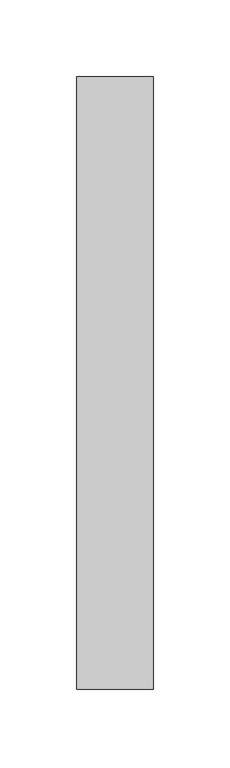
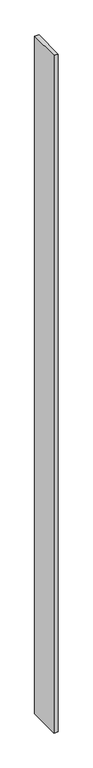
"""IFC4 building model written with IfcOpenShell, lengths in millimetres: proxy geometry, Menneau extrémité façade."""

import ifcopenshell
import ifcopenshell.guid

model = None  # the IFC model being written
_history = None  # IfcOwnerHistory: only IFC2X3 demands one
_inside = {}  # id of a spatial element -> (the spatial element, [elements in it])
_under = {}  # id of a project, library or spatial element -> (it, [spatial elements below it])
_declared = {}  # id of a project -> (the project, [libraries it declares])
_typed = {}  # id of a type object -> (the type object, [elements of that type])
_made_of = {}  # id of a material, layer set ... -> (it, [elements and type objects made of it])


def new_model(schema):
    """Start an empty IFC model of exactly this schema.

    Asked for "IFC4X3", IfcOpenShell would pick the latest addendum, in which some entities
    have other attributes; the version numbers below select the first issue.
    IFC2X3 requires an IfcOwnerHistory on every rooted entity: one is made here for all.
    """
    global model, _history
    if schema == "IFC4X3":
        model = ifcopenshell.file(schema_version=(4, 3, 0, 0))
    else:
        model = ifcopenshell.file(schema=schema)
    _inside.clear()
    _under.clear()
    _declared.clear()
    _typed.clear()
    _made_of.clear()
    _history = None
    if model.schema == "IFC2X3":
        org = make("IfcOrganization", Name="unknown")
        user = make(
            "IfcPersonAndOrganization",
            ThePerson=make("IfcPerson", FamilyName="unknown"),
            TheOrganization=org,
        )
        app = make(
            "IfcApplication",
            ApplicationDeveloper=org,
            Version="unknown",
            ApplicationFullName="unknown",
            ApplicationIdentifier="unknown",
        )
        _history = make(
            "IfcOwnerHistory",
            OwningUser=user,
            OwningApplication=app,
            ChangeAction="ADDED",
            CreationDate=0,
        )
    return model


def make(cls, **values):
    """One entity of the class cls with the attributes given. An attribute that is None is left unset."""
    return model.create_entity(
        cls, **{name: value for name, value in values.items() if value is not None}
    )


def rooted(cls, **values):
    """An entity with a GlobalId (a new one), such as an element, a storey or a relation."""
    return make(cls, GlobalId=ifcopenshell.guid.new(), OwnerHistory=_history, **values)


def si_unit(unit_type, name, prefix=None):
    """IfcSIUnit, for example si_unit("LENGTHUNIT", "METRE", prefix="MILLI")."""
    return make("IfcSIUnit", UnitType=unit_type, Prefix=prefix, Name=name)


def assignment(units):
    """IfcUnitAssignment: the units of a project."""
    return None if units is None else make("IfcUnitAssignment", Units=units)


def point(xyz):
    """IfcCartesianPoint."""
    return None if xyz is None else make("IfcCartesianPoint", Coordinates=xyz)


def direction(xyz):
    """IfcDirection."""
    return None if xyz is None else make("IfcDirection", DirectionRatios=xyz)


def frame(location, z_axis=None, x_axis=None):
    """IfcAxis2Placement3D, a coordinate frame: its origin and axes. An axis left out is left unset."""
    return make(
        "IfcAxis2Placement3D",
        Location=point(location),
        Axis=direction(z_axis),
        RefDirection=direction(x_axis),
    )


def origin():
    """The frame at (0, 0, 0) with its axes left unset."""
    return frame((0.0, 0.0, 0.0))


def place(relative_to, where):
    """IfcLocalPlacement: puts the frame where relative to a parent placement (None: the world)."""
    return make(
        "IfcLocalPlacement", PlacementRelTo=relative_to, RelativePlacement=where
    )


def context(
    kind, dimensions, precision=None, world=None, true_north=None, identifier=None
):
    """IfcGeometricRepresentationContext, for example the 3D "Model" context."""
    return make(
        "IfcGeometricRepresentationContext",
        ContextIdentifier=identifier,
        ContextType=kind,
        CoordinateSpaceDimension=dimensions,
        Precision=precision,
        WorldCoordinateSystem=world,
        TrueNorth=true_north,
    )


def project(units=None, contexts=None):
    """IfcProject with its units and contexts."""
    return rooted(
        "IfcProject",
        Name="project",
        RepresentationContexts=contexts,
        UnitsInContext=assignment(units),
    )


def spatial(cls, under=None, at=None, **own):
    """A site, building, storey or space (cls), placed at a placement, below another one or the project."""
    s = rooted(cls, ObjectPlacement=at, **own)
    if under is not None:
        _under.setdefault(under.id(), (under, []))[1].append(s)
    return s


def polyline(points):
    """IfcPolyline through the points."""
    return make("IfcPolyline", Points=[point(p) for p in points])


def outline(outer, holes=None, kind="AREA"):
    """IfcArbitraryClosedProfileDef: a profile drawn as a closed curve; with holes, ...WithVoids."""
    if holes is None:
        return make("IfcArbitraryClosedProfileDef", ProfileType=kind, OuterCurve=outer)
    return make(
        "IfcArbitraryProfileDefWithVoids",
        ProfileType=kind,
        OuterCurve=outer,
        InnerCurves=holes,
    )


def extrude(swept, where, along, depth):
    """IfcExtrudedAreaSolid: the profile swept, set in the frame where, extruded along a direction by depth."""
    return make(
        "IfcExtrudedAreaSolid",
        SweptArea=swept,
        Position=where,
        ExtrudedDirection=direction(along),
        Depth=depth,
    )


def shape(context_of_items, identifier, shape_type, items):
    """IfcShapeRepresentation: the items that make up one representation, for example the "Body"."""
    return make(
        "IfcShapeRepresentation",
        ContextOfItems=context_of_items,
        RepresentationIdentifier=identifier,
        RepresentationType=shape_type,
        Items=items,
    )


def source(mapping_origin, context_of_items, identifier, shape_type, items):
    """IfcRepresentationMap: a shape defined once, which mapped items show again and again."""
    return make(
        "IfcRepresentationMap",
        MappingOrigin=mapping_origin,
        MappedRepresentation=shape(context_of_items, identifier, shape_type, items),
    )


def transform(
    local_origin,
    x_axis=None,
    y_axis=None,
    z_axis=None,
    scale=None,
    scale2=None,
    scale3=None,
    uniform=True,
):
    """IfcCartesianTransformationOperator3D, or its non-uniform kind. x_axis, y_axis, z_axis: its Axis1, 2, 3."""
    if uniform:
        return make(
            "IfcCartesianTransformationOperator3D",
            Axis1=direction(x_axis),
            Axis2=direction(y_axis),
            LocalOrigin=point(local_origin),
            Scale=scale,
            Axis3=direction(z_axis),
        )
    return make(
        "IfcCartesianTransformationOperator3DnonUniform",
        Axis1=direction(x_axis),
        Axis2=direction(y_axis),
        LocalOrigin=point(local_origin),
        Scale=scale,
        Axis3=direction(z_axis),
        Scale2=scale2,
        Scale3=scale3,
    )


def mapped(mapping_source, mapping_target):
    """IfcMappedItem: shows the shape of a source again, moved by a transform."""
    return make(
        "IfcMappedItem", MappingSource=mapping_source, MappingTarget=mapping_target
    )


def made_of(thing, what):
    """Note that an element or type object is made of a material, layer set ...; save() writes the relation."""
    if what is not None:
        _made_of.setdefault(what.id(), (what, []))[1].append(thing)
    return thing


def element(
    cls,
    number,
    at=None,
    inside=None,
    cuts=None,
    type_object=None,
    material=None,
    context=None,
    identifier="Body",
    shape_type=None,
    held_by="IfcProductDefinitionShape",
    body=None,
    shapes=None,
    **own,
):
    """One element of the class cls, such as IfcWall. Its Tag is "e" and its number.

    at: its placement. inside: the storey or other place that contains it. cuts: it is an
    opening in that element (IfcRelVoidsElement). A single representation is given by context,
    identifier, shape_type and body (its items); several are given by shapes. held_by: the class
    of the entity that holds the representations. save() writes the other relations.
    """
    e = rooted(cls, Tag="e%d" % number, ObjectPlacement=at, **own)
    if body is not None:
        shapes = [shape(context, identifier, shape_type, body)]
    if shapes is not None:
        e.Representation = make(held_by, Representations=shapes)
    if inside is not None:
        _inside.setdefault(inside.id(), (inside, []))[1].append(e)
    if cuts is not None:
        rooted(
            "IfcRelVoidsElement", RelatingBuildingElement=cuts, RelatedOpeningElement=e
        )
    if type_object is not None:
        _typed.setdefault(type_object.id(), (type_object, []))[1].append(e)
    return made_of(e, material)


def aggregate(whole, parts):
    """IfcRelAggregates: a whole, such as a stair, and the parts it consists of."""
    return rooted("IfcRelAggregates", RelatingObject=whole, RelatedObjects=parts)


def save(model, path):
    """Write the relations noted so far, then the file.

    IfcRelAggregates (storeys below a building ...), IfcRelContainedInSpatialStructure (elements
    in a storey), IfcRelDefinesByType, IfcRelAssociatesMaterial and IfcRelDeclares: one each for
    every whole, place, type object, material and project.
    """
    for whole, parts in _under.values():
        aggregate(whole, parts)
    for where, things in _inside.values():
        rooted(
            "IfcRelContainedInSpatialStructure",
            RelatedElements=things,
            RelatingStructure=where,
        )
    for kind, things in _typed.values():
        rooted("IfcRelDefinesByType", RelatedObjects=things, RelatingType=kind)
    for what, things in _made_of.values():
        rooted("IfcRelAssociatesMaterial", RelatedObjects=things, RelatingMaterial=what)
    for by, libraries in _declared.values():
        rooted("IfcRelDeclares", RelatingContext=by, RelatedDefinitions=libraries)
    model.write(path)


def generic_models_3ca2ab7d(model_context):
    return source(origin(), model_context, "Body", "SweptSolid", [
        extrude(outline(polyline([(-3899.9988284, -10900.0), (-3949.9987968, -10900.0), (-3949.9987968, -10500.0), (-3899.9988284, -10500.0), (-3899.9988284, -10900.0)])), frame((0.0, 0.0, 3175.0), z_axis=(0.0, 0.0, 1.0), x_axis=(1.0, 0.0, 0.0)), (0.0, 0.0, 1.0), 8585.0),
    ])


if __name__ == "__main__":
    model = new_model("IFC4")
    model_context = context("Model", 3, world=origin())
    ifc_project = project(units=[si_unit("LENGTHUNIT", "METRE", prefix="MILLI")], contexts=[model_context])
    site = spatial("IfcSite", under=ifc_project)
    building = spatial("IfcBuilding", under=site)
    placement = place(None, origin())
    generic_models_shape = generic_models_3ca2ab7d(model_context)
    element("IfcBuildingElementProxy", 1, Name="Menneau extrémité façade", ObjectType="Menneau extrémité façade", at=placement, inside=building, context=model_context, shape_type="MappedRepresentation", body=[
        mapped(generic_models_shape, transform((0.0, 0.0, 0.0), x_axis=(1.0, 0.0, 0.0), y_axis=(0.0, 1.0, 0.0), z_axis=(0.0, 0.0, 1.0))),
    ])
    save(model, "model.ifc")
